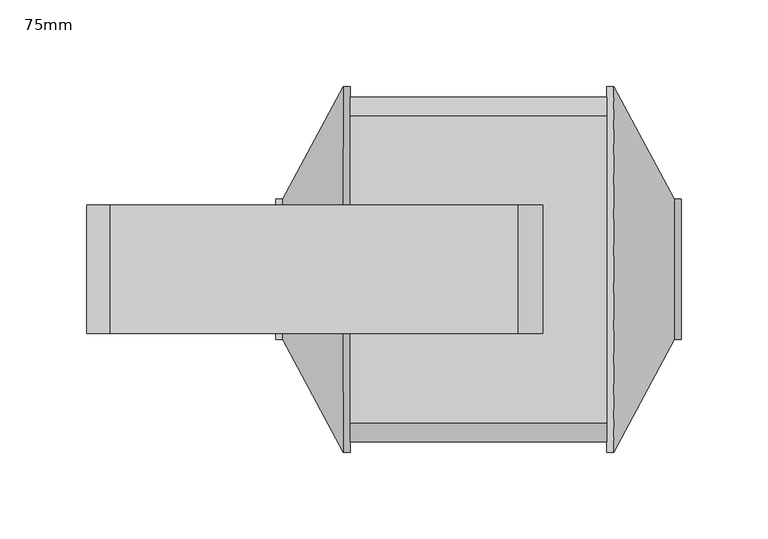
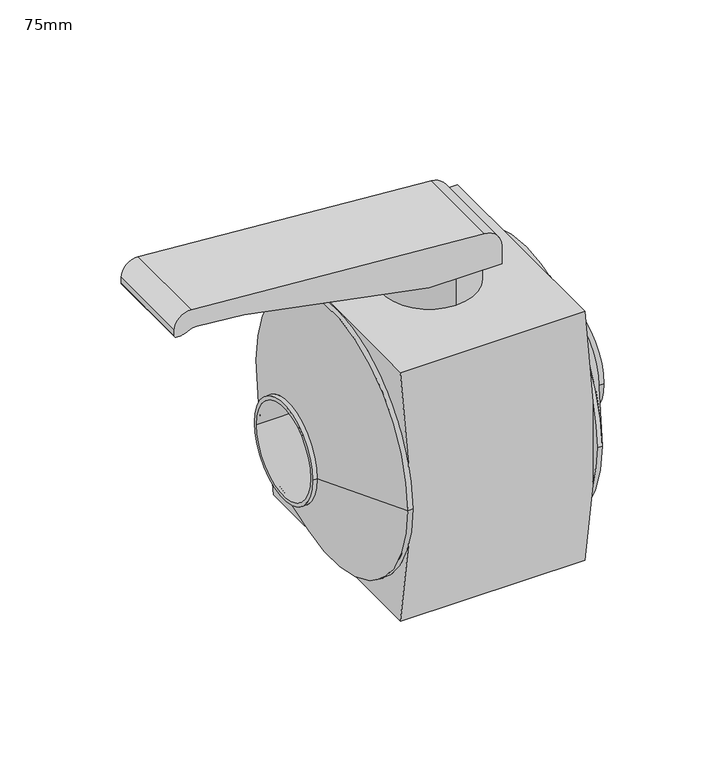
"""IFC4 building model written with IfcOpenShell, lengths in millimetres: pipe fitting geometry, PipeAccessory_HTA_CPVC_BallValves_(75-110) : 75mm."""

from ifc_helpers import new_model, si_unit, point, frame, frame_2d, origin, place, context, project, spatial, polyline, circle_curve, trimmed, segment, composite_curve, outline, extrude, source, transform, mapped, element, save
from ifc_brep_helpers import plane_surface, cylinder_surface, revolved_surface, advanced_brep


def pipe_fitting_75mm_b05ad406(model_context):
    return source(origin(), model_context, "Body", "SolidModel", [
        extrude(outline(composite_curve([segment(polyline([(127.769971, 37.0), (143.0385704, 37.0)]), True, "CONTINUOUS"), segment(trimmed(circle_curve(frame_2d((143.0385704, 22.0)), 15.0), [point((143.0385704, 37.0))], [point((158.0000408, 23.0744323))], False, "CARTESIAN"), True, "CONTINUOUS"), segment(polyline([(158.0000408, 23.0744323), (176.0137159, -212.2659945)]), True, "CONTINUOUS"), segment(trimmed(circle_curve(frame_2d((163.2306259, -213.1839902)), 12.8160098), [point((176.0137159, -212.2659945))], [point((163.2306259, -226.0))], False, "CARTESIAN"), True, "CONTINUOUS"), segment(polyline([(163.2306259, -226.0), (158.508446, -226.0)]), True, "CONTINUOUS"), segment(trimmed(circle_curve(frame_2d((158.508446, -224.491554)), 1.508446), [point((158.508446, -226.0))], [point((157.0, -224.491554))], False, "CARTESIAN"), True, "CONTINUOUS"), segment(polyline([(157.0, -224.491554), (157.0, -220.7032744)]), True, "CONTINUOUS"), segment(trimmed(circle_curve(frame_2d((164.9869467, -220.7032744)), 7.9869467), [point((157.0, -220.7032744))], [point((157.7483147, -217.3278449))], False, "CARTESIAN"), True, "CONTINUOUS"), segment(polyline([(157.7483147, -217.3278449), (159.3708994, -213.8482009)]), True, "CONTINUOUS"), segment(trimmed(circle_curve(frame_2d((148.9196901, -208.974722)), 11.5316335), [point((159.3708994, -213.8482009))], [point((160.4052437, -207.9448526))], True, "CARTESIAN"), True, "CONTINUOUS"), segment(polyline([(160.4052437, -207.9448526), (157.0, -169.9680892), (127.769971, -21.447273), (127.769971, 37.0)]), True, "CONTINUOUS")], self_intersect=False)), frame((0.0, -37.0, 0.0), z_axis=(0.0, 1.0, 0.0), x_axis=(0.0, 0.0, 1.0)), (0.0, 0.0, 1.0), 74.0),
        advanced_brep(
        [(-74.0, 88.5, 105.5), (-74.0, 99.4810726, 35.1250082), (-74.0, 0.0, 105.5), (-74.0, 0.0, -105.5), (-74.0, -88.5, -105.5), (-74.0, -99.4810726, -35.1250082), (-74.0, -99.4810726, 35.1250082), (-74.0, -88.5, 105.5), (-74.0, 99.4810726, -35.1250082), (-74.0, 88.5, -105.5), (74.0, 88.5, 105.5), (74.0, 0.0, 105.5), (74.0, 99.4810726, 35.1250082), (74.0, -88.5, 105.5), (74.0, -99.4810726, 35.1250082), (74.0, -99.4810726, -35.1250082), (74.0, -88.5, -105.5), (74.0, 0.0, -105.5), (74.0, 88.5, -105.5), (74.0, 99.4810726, -35.1250082), (0.0, -37.0, 105.5), (0.0, 37.0, 105.5), (-74.0, 105.5, 0.0), (-74.0, -105.5, 0.0), (-78.0, -105.5, 0.0), (-78.0, 105.5, 0.0), (74.0, -105.5, 0.0), (74.0, 105.5, 0.0), (78.0, -105.5, 0.0), (78.0, 105.5, 0.0), (113.0, 40.5, 0.0), (113.0, -40.5, 0.0), (117.0, -40.5, 0.0), (117.0, 40.5, 0.0), (117.0, 37.5, 0.0), (117.0, -37.5, 0.0), (0.0, 37.0, 130.5), (0.0, -37.0, 130.5), (-113.0, 40.5, 0.0), (-113.0, -40.5, 0.0), (-117.0, 40.5, 0.0), (-117.0, -40.5, 0.0), (-117.0, -37.5, 0.0), (-117.0, 37.5, 0.0), (74.0, 37.5, 0.0), (74.0, -37.5, 0.0), (-74.0, 37.5, 0.0), (-74.0, -37.5, 0.0)],
        [
            (0, 1, circle_curve(frame((-74.0, -356.625, 0.0), z_axis=(-1.0, 0.0, 0.0), x_axis=(0.0, 1.0, 0.0)), 457.4565724)),
            (1, 2, circle_curve(frame((-74.0, 0.0, 0.0), z_axis=(1.0, 0.0, 0.0), x_axis=(0.0, 1.0, 0.0)), 105.5)),
            (2, 0),
            (3, 4),
            (4, 5, circle_curve(frame((-74.0, 356.625, 0.0), z_axis=(-1.0, 0.0, 0.0), x_axis=(0.0, 1.0, 0.0)), 457.4565724)),
            (5, 3, circle_curve(frame((-74.0, 0.0, 0.0), z_axis=(1.0, 0.0, 0.0), x_axis=(0.0, 1.0, 0.0)), 105.5)),
            (6, 7, circle_curve(frame((-74.0, 356.625, 0.0), z_axis=(-1.0, 0.0, 0.0), x_axis=(0.0, 1.0, 0.0)), 457.4565724)),
            (7, 2),
            (2, 6, circle_curve(frame((-74.0, 0.0, 0.0), z_axis=(1.0, 0.0, 0.0), x_axis=(0.0, 1.0, 0.0)), 105.5)),
            (8, 9, circle_curve(frame((-74.0, -356.625, 0.0), z_axis=(-1.0, 0.0, 0.0), x_axis=(0.0, 1.0, 0.0)), 457.4565724)),
            (9, 3),
            (3, 8, circle_curve(frame((-74.0, 0.0, 0.0), z_axis=(1.0, 0.0, 0.0), x_axis=(0.0, 1.0, 0.0)), 105.5)),
            (10, 11),
            (11, 12, circle_curve(frame((74.0, 0.0, 0.0), z_axis=(-1.0, 0.0, 0.0), x_axis=(0.0, -1.0, 0.0)), 105.5)),
            (12, 10, circle_curve(frame((74.0, -356.625, 0.0), z_axis=(1.0, 0.0, 0.0), x_axis=(0.0, 1.0, 0.0)), 457.4565724)),
            (11, 13),
            (13, 14, circle_curve(frame((74.0, 356.625, 0.0), z_axis=(1.0, 0.0, 0.0), x_axis=(0.0, 1.0, 0.0)), 457.4565724)),
            (14, 11, circle_curve(frame((74.0, 0.0, 0.0), z_axis=(-1.0, 0.0, 0.0), x_axis=(0.0, -1.0, 0.0)), 105.5)),
            (15, 16, circle_curve(frame((74.0, 356.625, 0.0), z_axis=(1.0, 0.0, 0.0), x_axis=(0.0, 1.0, 0.0)), 457.4565724)),
            (16, 17),
            (17, 15, circle_curve(frame((74.0, 0.0, 0.0), z_axis=(-1.0, 0.0, 0.0), x_axis=(0.0, -1.0, 0.0)), 105.5)),
            (17, 18),
            (18, 19, circle_curve(frame((74.0, -356.625, 0.0), z_axis=(1.0, 0.0, 0.0), x_axis=(0.0, 1.0, 0.0)), 457.4565724)),
            (19, 17, circle_curve(frame((74.0, 0.0, 0.0), z_axis=(-1.0, 0.0, 0.0), x_axis=(0.0, -1.0, 0.0)), 105.5)),
            (9, 18),
            (16, 4),
            (7, 13),
            (10, 0),
            (20, 21, circle_curve(frame((0.0, 0.0, 105.5), z_axis=(0.0, 0.0, -1.0), x_axis=(0.0, -1.0, 0.0)), 37.0)),
            (21, 20, circle_curve(frame((0.0, 0.0, 105.5), z_axis=(0.0, 0.0, -1.0), x_axis=(0.0, -1.0, 0.0)), 37.0)),
            (8, 1, circle_curve(frame((-74.0, -356.625, 0.0), z_axis=(1.0, 0.0, 0.0), x_axis=(0.0, 1.0, 0.0)), 457.4565724)),
            (12, 19, circle_curve(frame((74.0, -356.625, 0.0), z_axis=(-1.0, 0.0, 0.0), x_axis=(0.0, 1.0, 0.0)), 457.4565724)),
            (15, 14, circle_curve(frame((74.0, 356.625, 0.0), z_axis=(-1.0, 0.0, 0.0), x_axis=(0.0, 1.0, 0.0)), 457.4565724)),
            (6, 5, circle_curve(frame((-74.0, 356.625, 0.0), z_axis=(1.0, 0.0, 0.0), x_axis=(0.0, 1.0, 0.0)), 457.4565724)),
            (22, 1, circle_curve(frame((-74.0, 0.0, 0.0), z_axis=(1.0, 0.0, 0.0), x_axis=(0.0, 1.0, 0.0)), 105.5)),
            (8, 22, circle_curve(frame((-74.0, 0.0, 0.0), z_axis=(1.0, 0.0, 0.0), x_axis=(0.0, 1.0, 0.0)), 105.5)),
            (6, 23, circle_curve(frame((-74.0, 0.0, 0.0), z_axis=(1.0, 0.0, 0.0), x_axis=(0.0, 1.0, 0.0)), 105.5)),
            (23, 5, circle_curve(frame((-74.0, 0.0, 0.0), z_axis=(1.0, 0.0, 0.0), x_axis=(0.0, 1.0, 0.0)), 105.5)),
            (24, 23),
            (22, 25),
            (25, 24, circle_curve(frame((-78.0, 0.0, 0.0), z_axis=(1.0, 0.0, 0.0), x_axis=(0.0, 1.0, 0.0)), 105.5)),
            (24, 25, circle_curve(frame((-78.0, 0.0, 0.0), z_axis=(1.0, 0.0, 0.0), x_axis=(0.0, 1.0, 0.0)), 105.5)),
            (15, 26, circle_curve(frame((74.0, 0.0, 0.0), z_axis=(-1.0, 0.0, 0.0), x_axis=(0.0, -1.0, 0.0)), 105.5)),
            (26, 14, circle_curve(frame((74.0, 0.0, 0.0), z_axis=(-1.0, 0.0, 0.0), x_axis=(0.0, -1.0, 0.0)), 105.5)),
            (27, 19, circle_curve(frame((74.0, 0.0, 0.0), z_axis=(-1.0, 0.0, 0.0), x_axis=(0.0, -1.0, 0.0)), 105.5)),
            (12, 27, circle_curve(frame((74.0, 0.0, 0.0), z_axis=(-1.0, 0.0, 0.0), x_axis=(0.0, -1.0, 0.0)), 105.5)),
            (28, 26),
            (27, 29),
            (29, 28, circle_curve(frame((78.0, 0.0, 0.0), z_axis=(-1.0, 0.0, 0.0), x_axis=(0.0, -1.0, 0.0)), 105.5)),
            (28, 29, circle_curve(frame((78.0, 0.0, 0.0), z_axis=(-1.0, 0.0, 0.0), x_axis=(0.0, -1.0, 0.0)), 105.5)),
            (29, 30),
            (30, 31, circle_curve(frame((113.0, 0.0, 0.0), z_axis=(-1.0, 0.0, 0.0), x_axis=(0.0, -1.0, 0.0)), 40.5)),
            (31, 28),
            (31, 30, circle_curve(frame((113.0, 0.0, 0.0), z_axis=(-1.0, 0.0, 0.0), x_axis=(0.0, 1.0, 0.0)), 40.5)),
            (32, 33, circle_curve(frame((117.0, 0.0, 0.0), z_axis=(1.0, 0.0, 0.0), x_axis=(0.0, 1.0, 0.0)), 40.5)),
            (33, 32, circle_curve(frame((117.0, 0.0, 0.0), z_axis=(1.0, 0.0, 0.0), x_axis=(0.0, 1.0, 0.0)), 40.5)),
            (34, 35, circle_curve(frame((117.0, 0.0, 0.0), z_axis=(-1.0, 0.0, 0.0), x_axis=(0.0, -1.0, 0.0)), 37.5)),
            (35, 34, circle_curve(frame((117.0, 0.0, 0.0), z_axis=(-1.0, 0.0, 0.0), x_axis=(0.0, -1.0, 0.0)), 37.5)),
            (33, 30),
            (31, 32),
            (36, 37, circle_curve(frame((0.0, 0.0, 130.5), z_axis=(0.0, 0.0, 1.0), x_axis=(0.0, -1.0, 0.0)), 37.0)),
            (37, 36, circle_curve(frame((0.0, 0.0, 130.5), z_axis=(0.0, 0.0, 1.0), x_axis=(0.0, -1.0, 0.0)), 37.0)),
            (36, 21),
            (20, 37),
            (25, 38),
            (38, 39, circle_curve(frame((-113.0, 0.0, 0.0), z_axis=(1.0, 0.0, 0.0), x_axis=(0.0, -1.0, 0.0)), 40.5)),
            (39, 24),
            (39, 38, circle_curve(frame((-113.0, 0.0, 0.0), z_axis=(1.0, 0.0, 0.0), x_axis=(0.0, 1.0, 0.0)), 40.5)),
            (40, 41, circle_curve(frame((-117.0, 0.0, 0.0), z_axis=(-1.0, 0.0, 0.0), x_axis=(0.0, -1.0, 0.0)), 40.5)),
            (41, 40, circle_curve(frame((-117.0, 0.0, 0.0), z_axis=(-1.0, 0.0, 0.0), x_axis=(0.0, -1.0, 0.0)), 40.5)),
            (42, 43, circle_curve(frame((-117.0, 0.0, 0.0), z_axis=(1.0, 0.0, 0.0), x_axis=(0.0, -1.0, 0.0)), 37.5)),
            (43, 42, circle_curve(frame((-117.0, 0.0, 0.0), z_axis=(1.0, 0.0, 0.0), x_axis=(0.0, -1.0, 0.0)), 37.5)),
            (40, 38),
            (39, 41),
            (44, 45, circle_curve(frame((74.0, 0.0, 0.0), z_axis=(1.0, 0.0, 0.0), x_axis=(0.0, -1.0, 0.0)), 37.5)),
            (45, 44, circle_curve(frame((74.0, 0.0, 0.0), z_axis=(1.0, 0.0, 0.0), x_axis=(0.0, -1.0, 0.0)), 37.5)),
            (45, 35),
            (34, 44),
            (46, 47, circle_curve(frame((-74.0, 0.0, 0.0), z_axis=(-1.0, 0.0, 0.0), x_axis=(0.0, -1.0, 0.0)), 37.5)),
            (47, 46, circle_curve(frame((-74.0, 0.0, 0.0), z_axis=(-1.0, 0.0, 0.0), x_axis=(0.0, -1.0, 0.0)), 37.5)),
            (46, 43),
            (42, 47),
        ],
        [
            plane_surface(frame((-74.0, 0.0, 0.0), z_axis=(-1.0, 0.0, 0.0), x_axis=(0.0, 0.0, 1.0))),
            plane_surface(frame((74.0, 0.0, 0.0), z_axis=(1.0, 0.0, 0.0), x_axis=(0.0, 0.0, 1.0))),
            plane_surface(frame((-74.0, 88.5, -105.5), z_axis=(0.0, 0.0, -1.0), x_axis=(1.0, 0.0, 0.0))),
            plane_surface(frame((-74.0, -88.5, 105.5), z_axis=(0.0, 0.0, 1.0), x_axis=(1.0, 0.0, 0.0))),
            cylinder_surface(frame((-74.0, -356.625, 0.0), z_axis=(-1.0, 0.0, 0.0), x_axis=(0.0, 1.0, 0.0)), 457.4565724),
            cylinder_surface(frame((-74.0, 356.625, 0.0), z_axis=(-1.0, 0.0, 0.0), x_axis=(0.0, 1.0, 0.0)), 457.4565724),
            plane_surface(frame((-74.0, 0.0, 0.0), z_axis=(1.0, 0.0, 0.0), x_axis=(0.0, 0.0, 1.0))),
            cylinder_surface(frame((-78.0, 0.0, 0.0), z_axis=(-1.0, 0.0, 0.0), x_axis=(0.0, 1.0, 0.0)), 105.5),
            plane_surface(frame((74.0, 0.0, 0.0), z_axis=(-1.0, 0.0, 0.0), x_axis=(0.0, 0.0, 1.0))),
            cylinder_surface(frame((78.0, 0.0, 0.0), z_axis=(1.0, 0.0, 0.0), x_axis=(0.0, -1.0, 0.0)), 105.5),
            revolved_surface(polyline([(113.0, 40.49999999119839, 0.0), (78.0, 105.5, 0.0)]), (134.8076923, 0.0, 0.0), (-1.0, 0.0, 0.0)),
            plane_surface(frame((117.0, 0.0, 0.0), z_axis=(1.0, 0.0, 0.0), x_axis=(0.0, 0.0, 1.0))),
            cylinder_surface(frame((113.0, 0.0, 0.0), z_axis=(-1.0, 0.0, 0.0), x_axis=(0.0, 1.0, 0.0)), 40.5),
            plane_surface(frame((0.0, 0.0, 130.5), z_axis=(0.0, 0.0, 1.0), x_axis=(0.0, -1.0, 0.0))),
            cylinder_surface(frame((0.0, 0.0, 130.5), z_axis=(0.0, 0.0, 1.0), x_axis=(0.0, -1.0, 0.0)), 37.0),
            revolved_surface(polyline([(-113.0, 40.49999999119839, 0.0), (-78.0, 105.5, 0.0)]), (-134.8076923, 0.0, 0.0), (1.0, 0.0, 0.0)),
            plane_surface(frame((-117.0, 0.0, 0.0), z_axis=(-1.0, 0.0, 0.0), x_axis=(0.0, 0.0, 1.0))),
            cylinder_surface(frame((-113.0, 0.0, 0.0), z_axis=(1.0, 0.0, 0.0), x_axis=(0.0, -1.0, 0.0)), 40.5),
            plane_surface(frame((74.0, -37.5, 0.0), z_axis=(1.0, 0.0, 0.0), x_axis=(0.0, 0.0, 1.0))),
            revolved_surface(polyline([(74.0, -37.5, 0.0), (117.0, -37.5, 0.0)]), (117.0, 0.0, 0.0), (-1.0, 0.0, 0.0)),
            plane_surface(frame((-74.0, -37.5, 0.0), z_axis=(-1.0, 0.0, 0.0), x_axis=(0.0, 0.0, -1.0))),
            revolved_surface(polyline([(-117.0, -37.5, 0.0), (-74.0, -37.5, 0.0)]), (-74.0, 0.0, 0.0), (-1.0, 0.0, 0.0)),
        ],
        [
            (0, [[1, 2, 3]]),
            (0, [[4, 5, 6]]),
            (0, [[7, 8, 9]]),
            (0, [[10, 11, 12]]),
            (1, [[13, 14, 15]]),
            (1, [[16, 17, 18]]),
            (1, [[19, 20, 21]]),
            (1, [[22, 23, 24]]),
            (2, [[25, -22, -20, 26, -4, -11]]),
            (3, [[27, -16, -13, 28, -3, -8], [29, 30]]),
            (4, [[-25, -10, 31, -1, -28, -15, 32, -23]]),
            (5, [[-26, -19, 33, -17, -27, -7, 34, -5]]),
            (6, [[35, -31, 36]]),
            (6, [[37, 38, -34]]),
            (7, [[39, -37, -9, -2, -35, 40, 41]]),
            (7, [[-39, 42, -40, -36, -12, -6, -38]]),
            (8, [[43, 44, -33]]),
            (8, [[45, -32, 46]]),
            (9, [[47, -43, -21, -24, -45, 48, 49]]),
            (9, [[-47, 50, -48, -46, -14, -18, -44]]),
            (10, [[51, 52, 53, -49]]),
            (10, [[-51, -50, -53, 54]]),
            (11, [[55, 56], [57, 58]]),
            (12, [[-56, 59, -54, 60]]),
            (12, [[-55, -60, -52, -59]]),
            (13, [[61, 62]]),
            (14, [[-61, 63, -29, 64]]),
            (14, [[-62, -64, -30, -63]]),
            (15, [[65, 66, 67, -41]]),
            (15, [[-65, -42, -67, 68]]),
            (16, [[69, 70], [71, 72]]),
            (17, [[-69, 73, -68, 74]]),
            (17, [[-70, -74, -66, -73]]),
            (18, [[75, 76]]),
            (19, [[-76, 77, -57, 78]]),
            (19, [[-75, -78, -58, -77]]),
            (20, [[79, 80]]),
            (21, [[-79, 81, -71, 82]]),
            (21, [[-80, -82, -72, -81]]),
        ],
    ),
    ])


if __name__ == "__main__":
    model = new_model("IFC4")
    model_context = context("Model", 3, world=origin())
    ifc_project = project(units=[si_unit("LENGTHUNIT", "METRE", prefix="MILLI")], contexts=[model_context])
    site = spatial("IfcSite", under=ifc_project)
    building = spatial("IfcBuilding", under=site)
    placement = place(None, origin())
    pipe_fitting_75mm_shape = pipe_fitting_75mm_b05ad406(model_context)
    element("IfcPipeFitting", 1, ObjectType="PipeAccessory_HTA_CPVC_BallValves_(75-110) : 75mm", at=placement, inside=building, context=model_context, shape_type="MappedRepresentation", body=[
        mapped(pipe_fitting_75mm_shape, transform((0.0, 0.0, 0.0), x_axis=(1.0, 0.0, 0.0), y_axis=(0.0, 1.0, 0.0), z_axis=(0.0, 0.0, 1.0))),
    ])
    save(model, "model.ifc")
